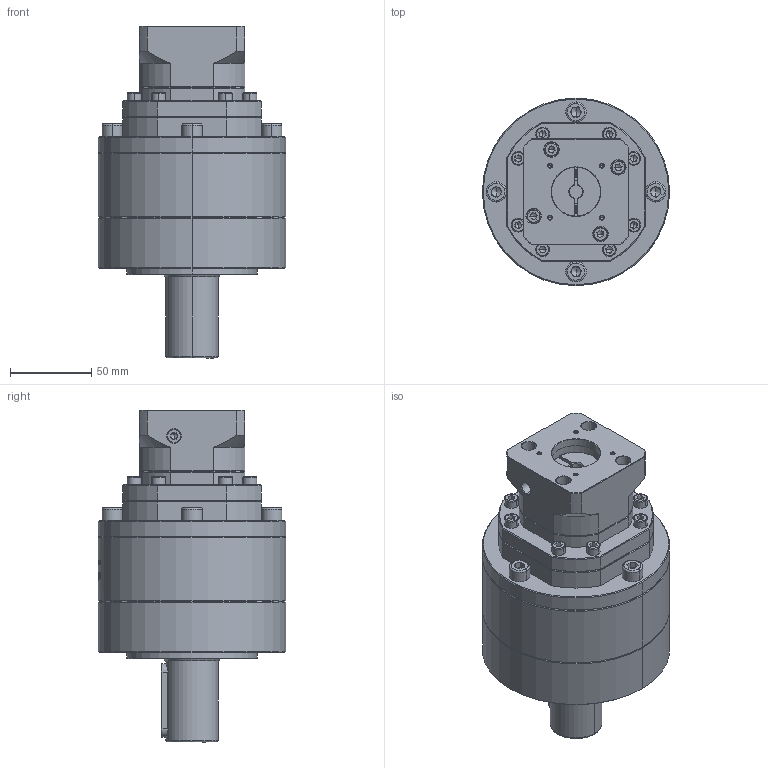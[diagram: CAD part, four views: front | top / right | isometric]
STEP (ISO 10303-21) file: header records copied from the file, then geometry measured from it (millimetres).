
FILE_DESCRIPTION (( 'STEP AP214' ), '1' );
FILE_NAME ('ZE120A-D32-L3-8-30-45-M3.step', '2023-03-09T15:38:18', ( '' ), ( 'Microsoft' ), 'SwSTEP 2.0', 'SolidWorks 2016', '' );
FILE_SCHEMA (( 'AUTOMOTIVE_DESIGN' ));
Length unit declared in the file: millimetre
Products named in the file (1): ZE120A-D32-L3-8-30-45-M3
Bounding box: 115 x 115 x 204 mm (x, y, z)
Volume: 1174321.1 mm3; surface area: 111990.4 mm2
Topology: 7 solids, 7 shells, 2165 faces, 5723 edges, 3660 vertices
Faces by surface type: plane 981, cylinder 517, bspline 349, cone 296, torus 22
Entity records: 119084 total; most frequent: CARTESIAN_POINT 46175, ORIENTED_EDGE 11322, DIRECTION 8734, EDGE_CURVE 5661, VERTEX_POINT 3660, VECTOR 3048, LINE 3048, AXIS2_PLACEMENT_3D 2843
